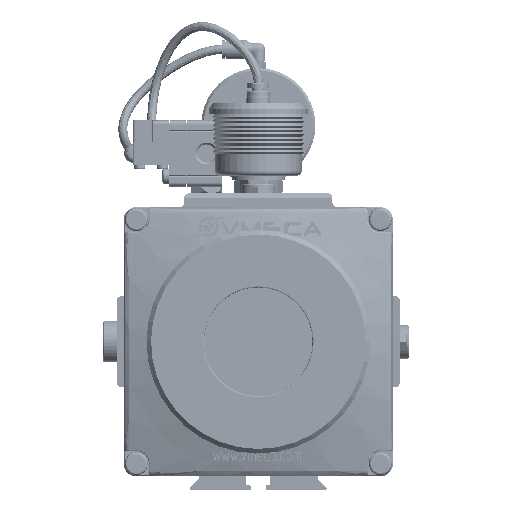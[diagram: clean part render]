
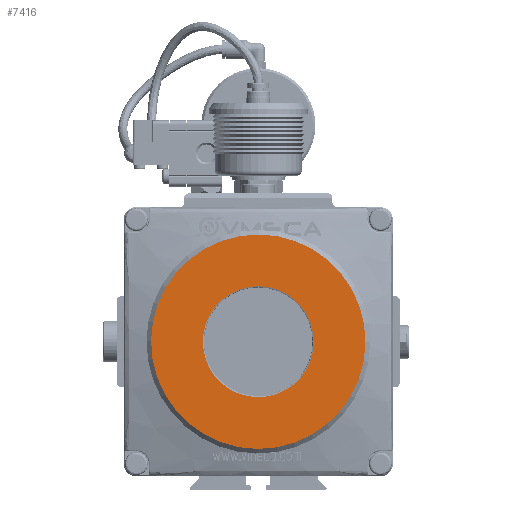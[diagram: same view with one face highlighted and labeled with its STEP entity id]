
A CAD part, left-side view. The second image highlights one B-rep face of the part: STEP entity #7416.
In plain terms, the highlighted planar face has unit normal (-1, 0, 0).
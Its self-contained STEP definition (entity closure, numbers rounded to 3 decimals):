
#7416 = ADVANCED_FACE( '', ( #15924, #15925 ), #15926, .F. );
#15924 = FACE_OUTER_BOUND( '', #28559, .T. );
#15925 = FACE_BOUND( '', #28560, .T. );
#15926 = PLANE( '', #28561 );
#28559 = EDGE_LOOP( '', ( #50662 ) );
#28560 = EDGE_LOOP( '', ( #50663 ) );
#28561 = AXIS2_PLACEMENT_3D( '', #50664, #50665, #50666 );
#50662 = ORIENTED_EDGE( '', *, *, #58436, .T. );
#50663 = ORIENTED_EDGE( '', *, *, #64198, .F. );
#50664 = CARTESIAN_POINT( '', ( -11., 0., 47. ) );
#50665 = DIRECTION( '', ( 1., 0., 0. ) );
#50666 = DIRECTION( '', ( 0., 1., 0. ) );
#58436 = EDGE_CURVE( '', #69502, #69502, #69503, .T. );
#64198 = EDGE_CURVE( '', #77735, #77735, #77736, .T. );
#69502 = VERTEX_POINT( '', #89266 );
#69503 = CIRCLE( '', #89267, 47. );
#77735 = VERTEX_POINT( '', #107495 );
#77736 = CIRCLE( '', #107496, 24.3 );
#89266 = CARTESIAN_POINT( '', ( -11., 0., 47. ) );
#89267 = AXIS2_PLACEMENT_3D( '', #111947, #111948, #111949 );
#107495 = CARTESIAN_POINT( '', ( -11., 0., 24.3 ) );
#107496 = AXIS2_PLACEMENT_3D( '', #117875, #117876, #117877 );
#111947 = CARTESIAN_POINT( '', ( -11., 0., 0. ) );
#111948 = DIRECTION( '', ( -1., 0., 0. ) );
#111949 = DIRECTION( '', ( 0., 0., 1. ) );
#117875 = CARTESIAN_POINT( '', ( -11., 0., 0. ) );
#117876 = DIRECTION( '', ( -1., 0., 0. ) );
#117877 = DIRECTION( '', ( 0., 0., 1. ) );
